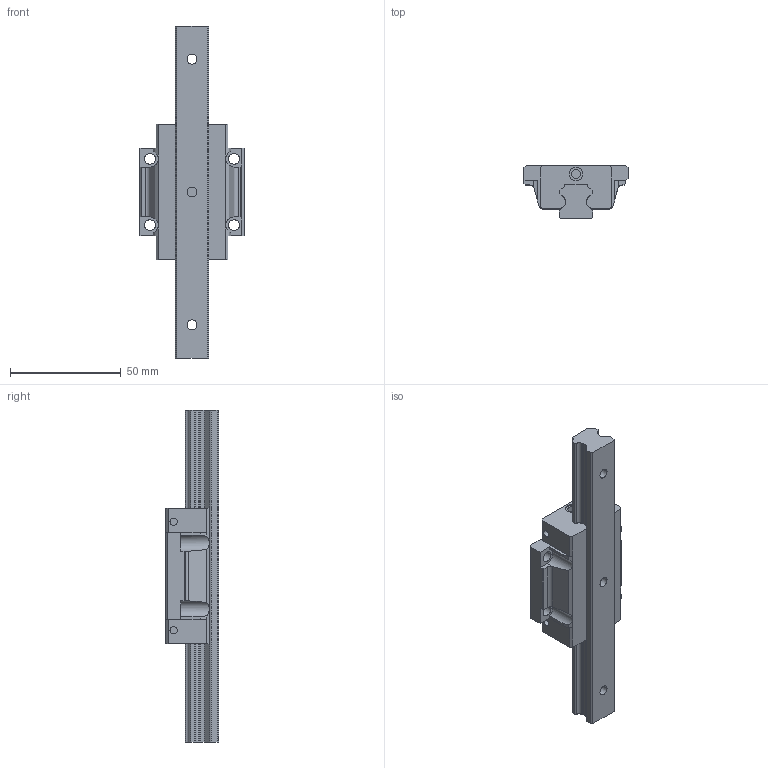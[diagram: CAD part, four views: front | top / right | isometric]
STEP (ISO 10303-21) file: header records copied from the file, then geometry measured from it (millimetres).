
FILE_DESCRIPTION((''),'2;1');
FILE_NAME('HGW15CC_ASM','2008-07-11T',('immo'),(''),'PRO/ENGINEER BY PARAMETRIC TECHNOLOGY CORPORATION, 2004360','PRO/ENGINEER BY PARAMETRIC TECHNOLOGY CORPORATION, 2004360','');
FILE_SCHEMA(('CONFIG_CONTROL_DESIGN'));
Length unit declared in the file: millimetre
Products named in the file (4): HGW15_2; HGR15_1; HGW_15_ASM_3_ASM; HGW15CC_ASM
Assembly tree (3 placements, depth 3):
  HGW15CC_ASM
    HGW_15_ASM_3_ASM
      HGW15_2
      HGR15_1
Bounding box: 47 x 24 x 150 mm (x, y, z)
Volume: 62532.5 mm3; surface area: 21261.1 mm2
Topology: 2 solids, 2 shells, 199 faces, 568 edges, 388 vertices
Faces by surface type: plane 123, cylinder 76
Entity records: 6724 total; most frequent: CARTESIAN_POINT 1232, ORIENTED_EDGE 1136, DIRECTION 1120, EDGE_CURVE 568, VECTOR 392, LINE 392, VERTEX_POINT 388, AXIS2_PLACEMENT_3D 364
